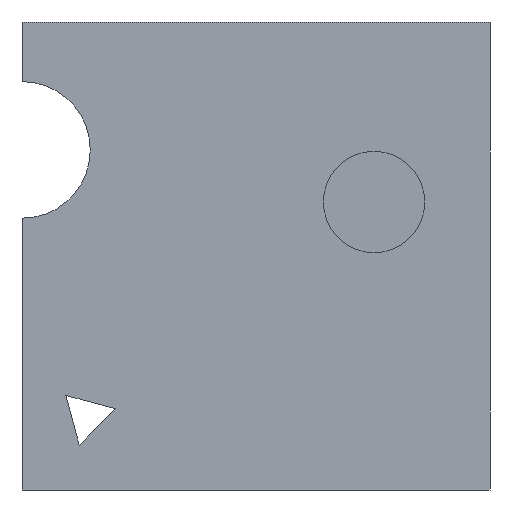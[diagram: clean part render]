
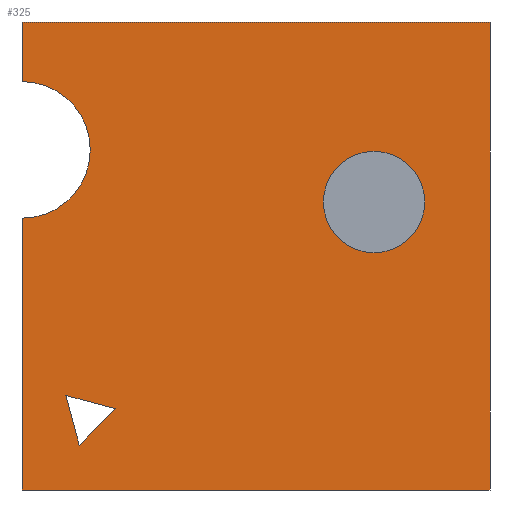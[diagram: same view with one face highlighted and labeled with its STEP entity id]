
A CAD part, left-side view. The second image highlights one B-rep face of the part: STEP entity #325.
In plain terms, the highlighted planar face has unit normal (-1, 0, 0).
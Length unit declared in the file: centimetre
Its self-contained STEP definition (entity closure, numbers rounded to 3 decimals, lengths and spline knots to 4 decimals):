
#8 = AXIS2_PLACEMENT_3D ( 'NONE', #198, #105, #297 ) ;
#14 = EDGE_CURVE ( 'NONE', #353, #459, #319, .T. ) ;
#15 = EDGE_CURVE ( 'NONE', #607, #605, #487, .T. ) ;
#20 = DIRECTION ( 'NONE',  ( -1., 0., 0. ) ) ;
#21 = CARTESIAN_POINT ( 'NONE',  ( 0., 1000., 1000. ) ) ;
#30 = AXIS2_PLACEMENT_3D ( 'NONE', #473, #20, #130 ) ;
#44 = EDGE_CURVE ( 'NONE', #234, #155, #271, .T. ) ;
#47 = ORIENTED_EDGE ( 'NONE', *, *, #317, .F. ) ;
#54 = ORIENTED_EDGE ( 'NONE', *, *, #44, .T. ) ;
#58 = CARTESIAN_POINT ( 'NONE',  ( 0., 247.7707, 615.3596 ) ) ;
#64 = EDGE_CURVE ( 'NONE', #588, #503, #579, .T. ) ;
#74 = LINE ( 'NONE', #118, #405 ) ;
#78 = EDGE_LOOP ( 'NONE', ( #452, #191, #423 ) ) ;
#85 = CARTESIAN_POINT ( 'NONE',  ( 0., 877.6252, 95.9934 ) ) ;
#87 = CARTESIAN_POINT ( 'NONE',  ( 0., 1000., 1000. ) ) ;
#105 = DIRECTION ( 'NONE',  ( 1., 0., 0. ) ) ;
#110 = EDGE_LOOP ( 'NONE', ( #311, #514 ) ) ;
#118 = CARTESIAN_POINT ( 'NONE',  ( 0., 1000., 1000. ) ) ;
#130 = DIRECTION ( 'NONE',  ( 0., 0., 1. ) ) ;
#131 = EDGE_CURVE ( 'NONE', #234, #391, #74, .T. ) ;
#134 = VECTOR ( 'NONE', #444, 100. ) ;
#135 = VERTEX_POINT ( 'NONE', #532 ) ;
#150 = CARTESIAN_POINT ( 'NONE',  ( 0., 877.6252, 95.9934 ) ) ;
#155 = VERTEX_POINT ( 'NONE', #232 ) ;
#162 = ORIENTED_EDGE ( 'NONE', *, *, #14, .T. ) ;
#168 = EDGE_CURVE ( 'NONE', #353, #155, #624, .T. ) ;
#171 = ORIENTED_EDGE ( 'NONE', *, *, #131, .F. ) ;
#177 = VECTOR ( 'NONE', #359, 100. ) ;
#178 = VECTOR ( 'NONE', #484, 100. ) ;
#187 = LINE ( 'NONE', #589, #134 ) ;
#191 = ORIENTED_EDGE ( 'NONE', *, *, #221, .T. ) ;
#192 = CARTESIAN_POINT ( 'NONE',  ( 0., 0., 1000. ) ) ;
#198 = CARTESIAN_POINT ( 'NONE',  ( 0., 1000., 1000. ) ) ;
#206 = ORIENTED_EDGE ( 'NONE', *, *, #168, .F. ) ;
#207 = FACE_OUTER_BOUND ( 'NONE', #390, .T. ) ;
#215 = CARTESIAN_POINT ( 'NONE',  ( 0., 799.9305, 173.6881 ) ) ;
#220 = DIRECTION ( 'NONE',  ( 0., 0., -1. ) ) ;
#221 = EDGE_CURVE ( 'NONE', #503, #135, #187, .T. ) ;
#227 = DIRECTION ( 'NONE',  ( 0., -1., 0. ) ) ;
#230 = AXIS2_PLACEMENT_3D ( 'NONE', #584, #631, #272 ) ;
#232 = CARTESIAN_POINT ( 'NONE',  ( 0., 1000., 872.6177 ) ) ;
#234 = VERTEX_POINT ( 'NONE', #87 ) ;
#247 = CARTESIAN_POINT ( 'NONE',  ( 0., 1000., 580.8592 ) ) ;
#252 = ORIENTED_EDGE ( 'NONE', *, *, #510, .T. ) ;
#256 = CARTESIAN_POINT ( 'NONE',  ( 0., 1000., 0. ) ) ;
#260 = PLANE ( 'NONE',  #8 ) ;
#265 = DIRECTION ( 'NONE',  ( 0., 0., 1. ) ) ;
#271 = LINE ( 'NONE', #21, #358 ) ;
#272 = DIRECTION ( 'NONE',  ( 0., 0., 1. ) ) ;
#279 = LINE ( 'NONE', #215, #178 ) ;
#297 = DIRECTION ( 'NONE',  ( 0., 0., -1. ) ) ;
#304 = FACE_BOUND ( 'NONE', #110, .T. ) ;
#308 = CARTESIAN_POINT ( 'NONE',  ( 0., 0., 0. ) ) ;
#311 = ORIENTED_EDGE ( 'NONE', *, *, #642, .F. ) ;
#317 = EDGE_CURVE ( 'NONE', #391, #387, #646, .T. ) ;
#319 = LINE ( 'NONE', #474, #533 ) ;
#325 = ADVANCED_FACE ( 'NONE', ( #608, #304, #207 ), #260, .F. ) ;
#353 = VERTEX_POINT ( 'NONE', #247 ) ;
#354 = CARTESIAN_POINT ( 'NONE',  ( 0., 0., 1000. ) ) ;
#358 = VECTOR ( 'NONE', #220, 100. ) ;
#359 = DIRECTION ( 'NONE',  ( 0., -1., 0. ) ) ;
#385 = DIRECTION ( 'NONE',  ( 0., 0.707, -0.707 ) ) ;
#387 = VERTEX_POINT ( 'NONE', #308 ) ;
#390 = EDGE_LOOP ( 'NONE', ( #54, #206, #162, #252, #47, #171 ) ) ;
#391 = VERTEX_POINT ( 'NONE', #354 ) ;
#405 = VECTOR ( 'NONE', #227, 100. ) ;
#423 = ORIENTED_EDGE ( 'NONE', *, *, #548, .T. ) ;
#444 = DIRECTION ( 'NONE',  ( 0., 0.262, 0.965 ) ) ;
#452 = ORIENTED_EDGE ( 'NONE', *, *, #64, .T. ) ;
#459 = VERTEX_POINT ( 'NONE', #256 ) ;
#463 = CARTESIAN_POINT ( 'NONE',  ( 0., 1000., 0. ) ) ;
#469 = CARTESIAN_POINT ( 'NONE',  ( 0., 247.7707, 723.617 ) ) ;
#471 = CARTESIAN_POINT ( 'NONE',  ( 0., 799.9305, 173.6881 ) ) ;
#473 = CARTESIAN_POINT ( 'NONE',  ( 0., 1000., 726.7385 ) ) ;
#474 = CARTESIAN_POINT ( 'NONE',  ( 0., 1000., 1000. ) ) ;
#476 = AXIS2_PLACEMENT_3D ( 'NONE', #58, #580, #265 ) ;
#484 = DIRECTION ( 'NONE',  ( 0., -0.966, -0.257 ) ) ;
#487 = CIRCLE ( 'NONE', #476, 108.2574 ) ;
#503 = VERTEX_POINT ( 'NONE', #150 ) ;
#510 = EDGE_CURVE ( 'NONE', #459, #387, #606, .T. ) ;
#512 = VECTOR ( 'NONE', #595, 100. ) ;
#514 = ORIENTED_EDGE ( 'NONE', *, *, #15, .F. ) ;
#523 = CIRCLE ( 'NONE', #230, 108.2574 ) ;
#526 = DIRECTION ( 'NONE',  ( 0., 0., -1. ) ) ;
#532 = CARTESIAN_POINT ( 'NONE',  ( 0., 906.3844, 202.0403 ) ) ;
#533 = VECTOR ( 'NONE', #526, 100. ) ;
#548 = EDGE_CURVE ( 'NONE', #135, #588, #279, .T. ) ;
#579 = LINE ( 'NONE', #85, #611 ) ;
#580 = DIRECTION ( 'NONE',  ( -1., 0., 0. ) ) ;
#584 = CARTESIAN_POINT ( 'NONE',  ( 0., 247.7707, 615.3596 ) ) ;
#588 = VERTEX_POINT ( 'NONE', #471 ) ;
#589 = CARTESIAN_POINT ( 'NONE',  ( 0., 906.3844, 202.0403 ) ) ;
#595 = DIRECTION ( 'NONE',  ( 0., 0., -1. ) ) ;
#605 = VERTEX_POINT ( 'NONE', #469 ) ;
#606 = LINE ( 'NONE', #463, #177 ) ;
#607 = VERTEX_POINT ( 'NONE', #618 ) ;
#608 = FACE_BOUND ( 'NONE', #78, .T. ) ;
#611 = VECTOR ( 'NONE', #385, 100. ) ;
#618 = CARTESIAN_POINT ( 'NONE',  ( 0., 247.7707, 507.1022 ) ) ;
#624 = CIRCLE ( 'NONE', #30, 145.8792 ) ;
#631 = DIRECTION ( 'NONE',  ( -1., 0., 0. ) ) ;
#642 = EDGE_CURVE ( 'NONE', #605, #607, #523, .T. ) ;
#646 = LINE ( 'NONE', #192, #512 ) ;
